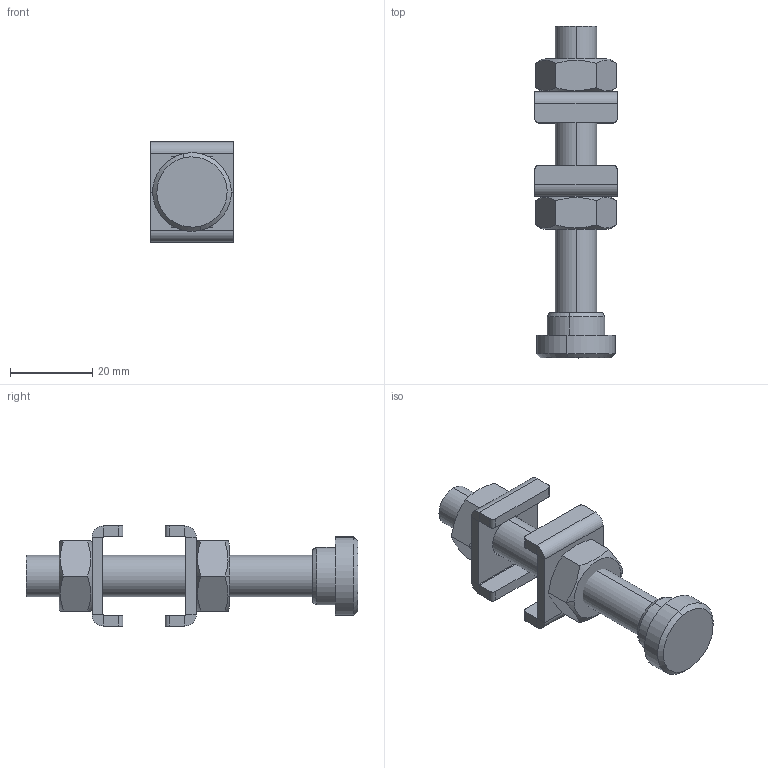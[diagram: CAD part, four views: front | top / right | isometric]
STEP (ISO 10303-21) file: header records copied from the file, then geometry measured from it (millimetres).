
FILE_DESCRIPTION (( 'STEP AP203' ), '1' );
FILE_NAME ('ARP-M10.STEP', '2011-05-20T17:32:15', ( 'Usuario' ), ( '' ), 'SwSTEP 2.0', 'SolidWorks 2011', '' );
FILE_SCHEMA (( 'CONFIG_CONTROL_DESIGN' ));
Length unit declared in the file: millimetre
Products named in the file (5): ARP-M10; 11.50003; 14.10003; 20.20002; 20.20003
Assembly tree (6 placements, depth 2):
  ARP-M10
    14.10003  x2
    11.50003  x2
    20.20003
    20.20002
Bounding box: 20 x 80.5 x 24.3 mm (x, y, z)
Volume: 13675.2 mm3; surface area: 8966.4 mm2
Topology: 6 solids, 6 shells, 118 faces, 262 edges, 157 vertices
Faces by surface type: plane 58, cylinder 34, cone 26
Entity records: 2625 total; most frequent: CARTESIAN_POINT 452, DIRECTION 368, ORIENTED_EDGE 308, EDGE_CURVE 154, AXIS2_PLACEMENT_3D 145, VERTEX_POINT 93, EDGE_LOOP 79, VECTOR 78
